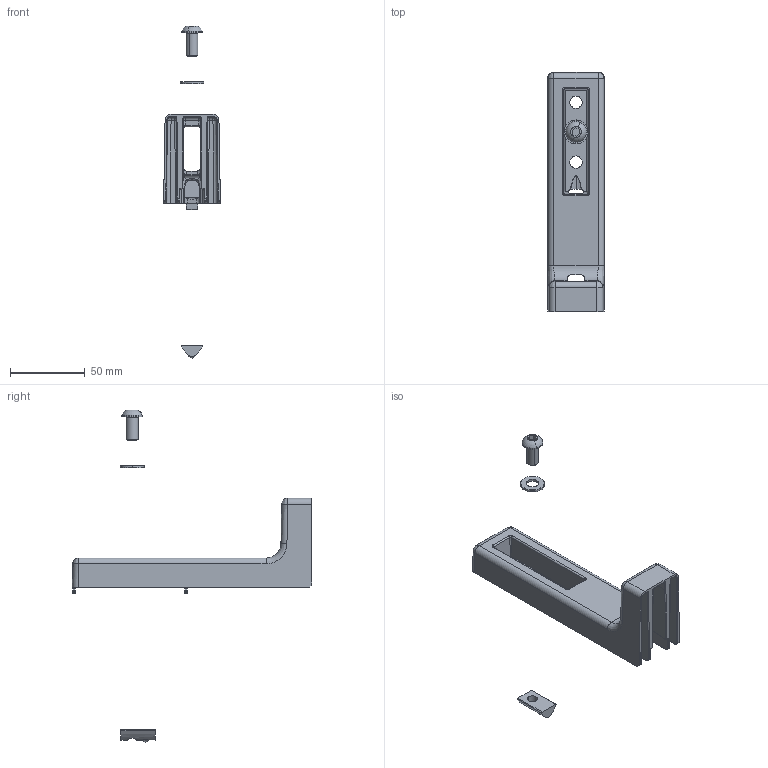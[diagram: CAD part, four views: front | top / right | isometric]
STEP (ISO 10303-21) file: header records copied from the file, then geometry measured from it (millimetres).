
FILE_DESCRIPTION (( 'STEP AP203' ), '1' );
FILE_NAME ('10636_WINOVER.STEP', '2018-03-29T13:12:16', ( '' ), ( '' ), 'SwSTEP 2.0', 'SolidWorks 2017', '' );
FILE_SCHEMA (( 'CONFIG_CONTROL_DESIGN' ));
Length unit declared in the file: millimetre
Products named in the file (5): 10636_WINOVER; 10461-01-0000-00_scheibe m8; 10224-01-0000-00_LKS M8x16; 10635_36-01-0000-00_Grundelement; 10358-01-0000-00_nutenstein m8
Assembly tree (4 placements, depth 2):
  10636_WINOVER
    10635_36-01-0000-00_Grundelement
    10224-01-0000-00_LKS M8x16
    10358-01-0000-00_nutenstein m8
    10461-01-0000-00_scheibe m8
Bounding box: 38 x 160 x 221.95 mm (x, y, z)
Volume: 62148.4 mm3; surface area: 44624.4 mm2
Topology: 4 solids, 4 shells, 558 faces, 1284 edges, 727 vertices
Faces by surface type: cylinder 225, bspline 191, plane 109, cone 27, torus 6
Entity records: 24725 total; most frequent: CARTESIAN_POINT 12984, ORIENTED_EDGE 2536, DIRECTION 2073, EDGE_CURVE 1268, AXIS2_PLACEMENT_3D 777, VERTEX_POINT 727, EDGE_LOOP 581, FACE_OUTER_BOUND 558
